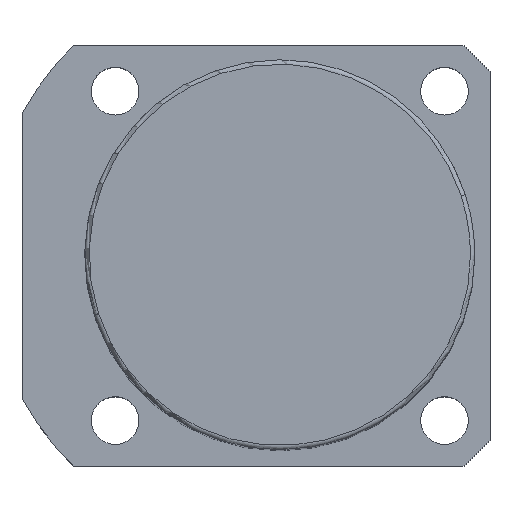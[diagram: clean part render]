
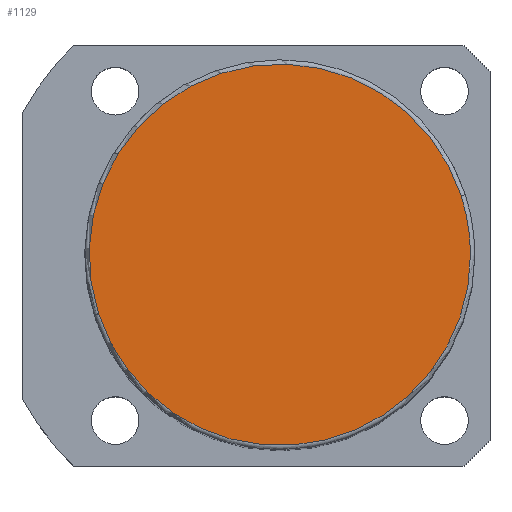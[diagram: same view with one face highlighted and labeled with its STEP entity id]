
A CAD part, top view. The second image highlights one B-rep face of the part: STEP entity #1129.
In plain terms, the highlighted planar face has unit normal (0, 0, 1).
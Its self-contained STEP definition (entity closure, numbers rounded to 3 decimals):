
#1062=CARTESIAN_POINT('',(41.846,13.597,161.5));
#1063=VERTEX_POINT('',#1062);
#1081=CARTESIAN_POINT('',(-41.846,-13.597,161.5));
#1082=VERTEX_POINT('',#1081);
#1090=CARTESIAN_POINT('',(0.0,0.0,161.5));
#1091=DIRECTION('',(0.0,0.0,1.0));
#1092=DIRECTION('',(1.0,0.0,0.0));
#1093=AXIS2_PLACEMENT_3D('',#1090,#1091,#1092);
#1094=CIRCLE('',#1093,44.0);
#1095=EDGE_CURVE('no 1689',#1063,#1082,#1094,.T.);
#1105=CARTESIAN_POINT('',(44.0,0.0,161.5));
#1106=VERTEX_POINT('',#1105);
#1107=CARTESIAN_POINT('',(0.0,0.0,161.5));
#1108=DIRECTION('',(0.0,0.0,1.0));
#1109=DIRECTION('',(1.0,0.0,0.0));
#1110=AXIS2_PLACEMENT_3D('',#1107,#1108,#1109);
#1111=CIRCLE('',#1110,44.0);
#1112=EDGE_CURVE('no 1698',#1106,#1063,#1111,.T.);
#1113=ORIENTED_EDGE('',*,*,#1112,.T.);
#1114=ORIENTED_EDGE('',*,*,#1095,.T.);
#1115=CARTESIAN_POINT('',(0.0,0.0,161.5));
#1116=DIRECTION('',(0.0,0.0,1.0));
#1117=DIRECTION('',(1.0,0.0,0.0));
#1118=AXIS2_PLACEMENT_3D('',#1115,#1116,#1117);
#1119=CIRCLE('',#1118,44.0);
#1120=EDGE_CURVE('no 1704',#1082,#1106,#1119,.T.);
#1121=ORIENTED_EDGE('',*,*,#1120,.T.);
#1122=EDGE_LOOP('',(#1113,#1114,#1121));
#1123=FACE_OUTER_BOUND('',#1122,.T.);
#1124=CARTESIAN_POINT('',(0.0,0.0,161.5));
#1125=DIRECTION('',(0.0,0.0,1.0));
#1126=DIRECTION('',(1.0,0.0,0.0));
#1127=AXIS2_PLACEMENT_3D('',#1124,#1125,#1126);
#1128=PLANE('',#1127);
#1129=ADVANCED_FACE('no 1691',(#1123),#1128,.T.);
